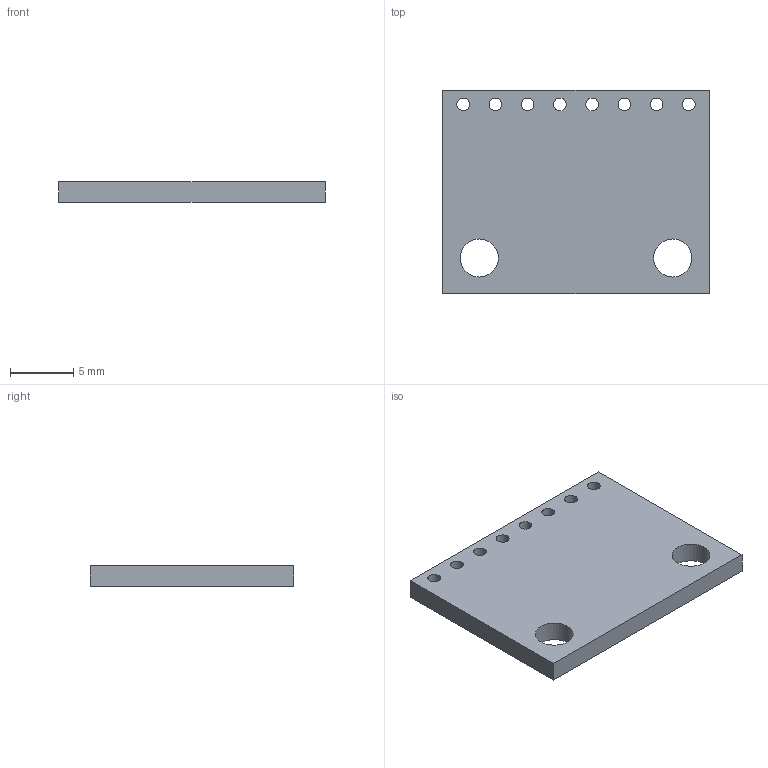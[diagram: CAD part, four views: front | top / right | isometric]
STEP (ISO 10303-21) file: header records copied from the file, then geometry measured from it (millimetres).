
FILE_DESCRIPTION(/* description */ ('STEP AP242 Edition 2','CAx-IF Rec.Pracs.---Representation and Presentation of Product Manufacturing Information (PMI)---4.0---2014-10-13','CAx-IF Rec.Pracs.---3D Tessellated Geometry---0.4---2014-09-14','2;1','CAx-IF Rec.Pracs.---User Defined Attributes---1.5---2016-08-15'),/* implementation_level */ '2;1');
FILE_NAME(/* name */ 'Drone Layout - Surface 295',/* time_stamp */ '2026-10-04T22:22:55Z',/* author */ (''),/* organization */ (''),/* preprocessor_version */ 'ST-DEVELOPER v20',/* originating_system */ 'ONSHAPE BY PTC INC, 1.221',/* authorisation */ ' ');
FILE_SCHEMA (('AP242_MANAGED_MODEL_BASED_3D_ENGINEERING_MIM_LF { 1 0 10303 442 3 1 4 }'));
Length unit declared in the file: metre
Products named in the file (1): PCB
Bounding box: 21 x 16 x 1.6 mm (x, y, z)
Volume: 504.9 mm3; surface area: 819.9 mm2
Topology: 1 solids, 1 shells, 16 faces, 42 edges, 28 vertices
Faces by surface type: cylinder 10, plane 6
Full cylindrical faces by diameter (mm): 1 x8, 3 x2
Entity records: 559 total; most frequent: DIRECTION 96, CARTESIAN_POINT 87, ORIENTED_EDGE 84, EDGE_CURVE 42, AXIS2_PLACEMENT_3D 37, EDGE_LOOP 36, FACE_BOUND 36, VERTEX_POINT 28
